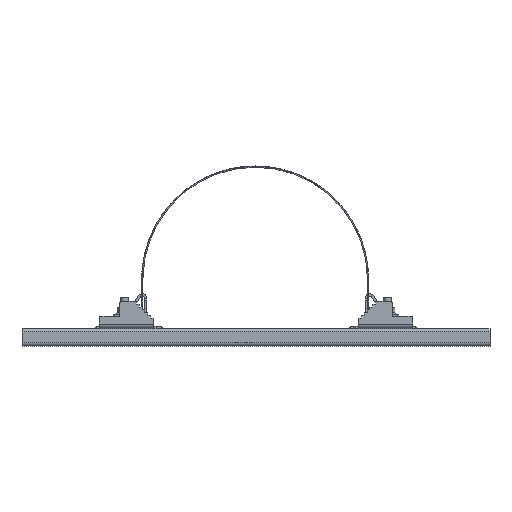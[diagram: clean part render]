
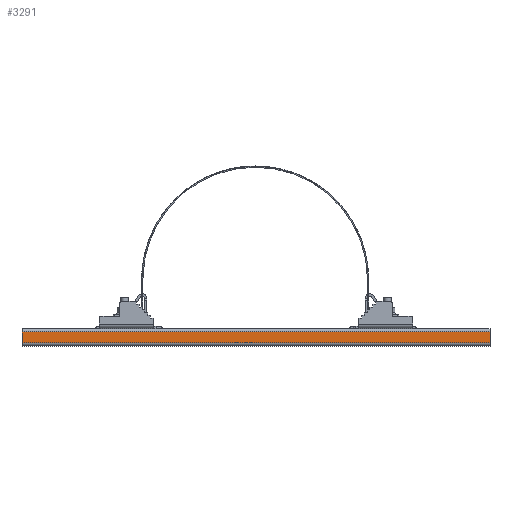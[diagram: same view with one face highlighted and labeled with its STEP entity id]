
A CAD part, front view. The second image highlights one B-rep face of the part: STEP entity #3291.
In plain terms, the highlighted planar face has unit normal (0, -1, -0.004) as drawn and (0, 0, 1) by its records, which use the part's own axes.
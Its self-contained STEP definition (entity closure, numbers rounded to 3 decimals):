
#914 = VECTOR ( 'NONE', #4061, 1000. ) ;
#1061 = LINE ( 'NONE', #1560, #1638 ) ;
#1522 = ORIENTED_EDGE ( 'NONE', *, *, #4990, .F. ) ;
#1560 = CARTESIAN_POINT ( 'NONE',  ( 3.5, 600., 19. ) ) ;
#1638 = VECTOR ( 'NONE', #1774, 1000. ) ;
#1673 = CARTESIAN_POINT ( 'NONE',  ( 0., -250., 19. ) ) ;
#1774 = DIRECTION ( 'NONE',  ( 0., -1., 0. ) ) ;
#1945 = EDGE_CURVE ( 'NONE', #4608, #4500, #3334, .T. ) ;
#2401 = DIRECTION ( 'NONE',  ( 0., -1., 0. ) ) ;
#3107 = ORIENTED_EDGE ( 'NONE', *, *, #1945, .F. ) ;
#3174 = CARTESIAN_POINT ( 'NONE',  ( 15., -250., 19. ) ) ;
#3291 = ADVANCED_FACE ( 'NONE', ( #5642 ), #10495, .F. ) ;
#3334 = LINE ( 'NONE', #5168, #8667 ) ;
#3609 = DIRECTION ( 'NONE',  ( 1., 0., 0. ) ) ;
#4061 = DIRECTION ( 'NONE',  ( 1., 0., 0. ) ) ;
#4155 = DIRECTION ( 'NONE',  ( 0., 0., -1. ) ) ;
#4500 = VERTEX_POINT ( 'NONE', #3174 ) ;
#4563 = LINE ( 'NONE', #1673, #5580 ) ;
#4608 = VERTEX_POINT ( 'NONE', #8923 ) ;
#4990 = EDGE_CURVE ( 'NONE', #8536, #4608, #7532, .T. ) ;
#5093 = CARTESIAN_POINT ( 'NONE',  ( 3.5, 250., 19. ) ) ;
#5168 = CARTESIAN_POINT ( 'NONE',  ( 15., 600., 19. ) ) ;
#5339 = EDGE_CURVE ( 'NONE', #6384, #4500, #4563, .T. ) ;
#5580 = VECTOR ( 'NONE', #3609, 1000. ) ;
#5642 = FACE_OUTER_BOUND ( 'NONE', #7716, .T. ) ;
#5996 = DIRECTION ( 'NONE',  ( -1., 0., 0. ) ) ;
#6119 = AXIS2_PLACEMENT_3D ( 'NONE', #11678, #4155, #5996 ) ;
#6384 = VERTEX_POINT ( 'NONE', #7336 ) ;
#7336 = CARTESIAN_POINT ( 'NONE',  ( 3.5, -250., 19. ) ) ;
#7462 = ORIENTED_EDGE ( 'NONE', *, *, #5339, .T. ) ;
#7532 = LINE ( 'NONE', #9687, #914 ) ;
#7716 = EDGE_LOOP ( 'NONE', ( #3107, #1522, #9715, #7462 ) ) ;
#8536 = VERTEX_POINT ( 'NONE', #5093 ) ;
#8667 = VECTOR ( 'NONE', #2401, 1000. ) ;
#8923 = CARTESIAN_POINT ( 'NONE',  ( 15., 250., 19. ) ) ;
#9416 = EDGE_CURVE ( 'NONE', #8536, #6384, #1061, .T. ) ;
#9687 = CARTESIAN_POINT ( 'NONE',  ( 0., 250., 19. ) ) ;
#9715 = ORIENTED_EDGE ( 'NONE', *, *, #9416, .T. ) ;
#10495 = PLANE ( 'NONE',  #6119 ) ;
#11678 = CARTESIAN_POINT ( 'NONE',  ( 0., 600., 19. ) ) ;
